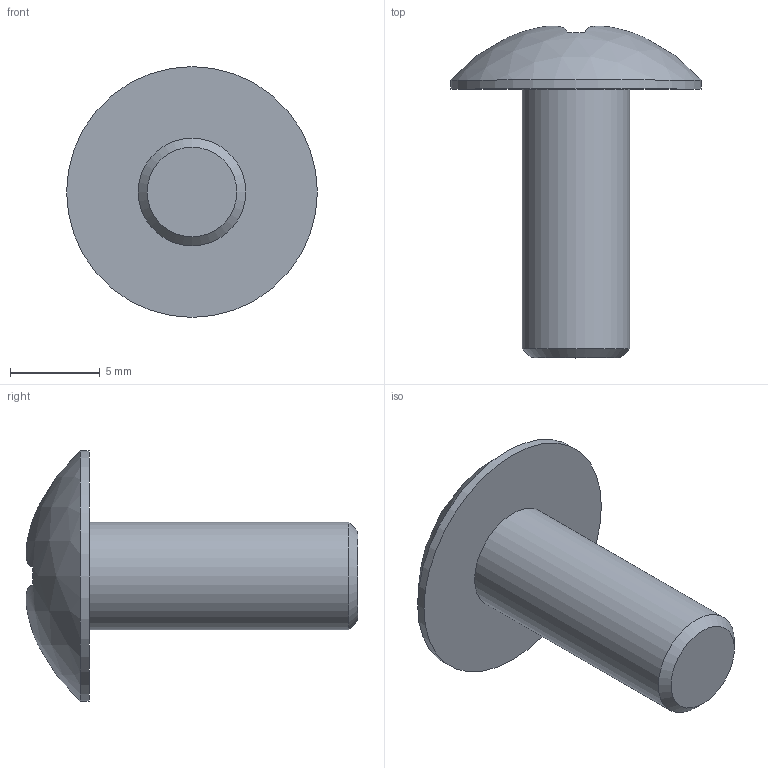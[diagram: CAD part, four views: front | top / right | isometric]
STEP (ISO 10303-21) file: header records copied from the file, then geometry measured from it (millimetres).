
FILE_DESCRIPTION(/* description */ (''),/* implementation_level */ '2;1');
FILE_NAME(/* name */ 'C:\Users\AMS43\Documents\Inventor\AMS\misumi\ボルト_ipt\ボルト_stp\TSB-06-15.ipt.stp',/* time_stamp */ '2016-10-06T11:46:45+09:00',/* author */ ('AMS43'),/* organization */ (''),/* preprocessor_version */ 'ST-DEVELOPER v15.2',/* originating_system */ 'Autodesk Inventor 2014',/* authorisation */ '');
FILE_SCHEMA (('AUTOMOTIVE_DESIGN { 1 0 10303 214 3 1 1 }'));
Length unit declared in the file: metre
Products named in the file (1): TSB-06-15
Bounding box: 14 x 18.52 x 14 mm (x, y, z)
Volume: 733 mm3; surface area: 669.4 mm2
Topology: 1 solids, 1 shells, 15 faces, 32 edges, 21 vertices
Faces by surface type: plane 7, cylinder 6, sphere 1, cone 1
Full cylindrical faces by diameter (mm): 6 x1, 14 x1
Entity records: 455 total; most frequent: CARTESIAN_POINT 102, DIRECTION 70, ORIENTED_EDGE 58, EDGE_CURVE 29, AXIS2_PLACEMENT_3D 29, VERTEX_POINT 21, EDGE_LOOP 20, FACE_OUTER_BOUND 15
